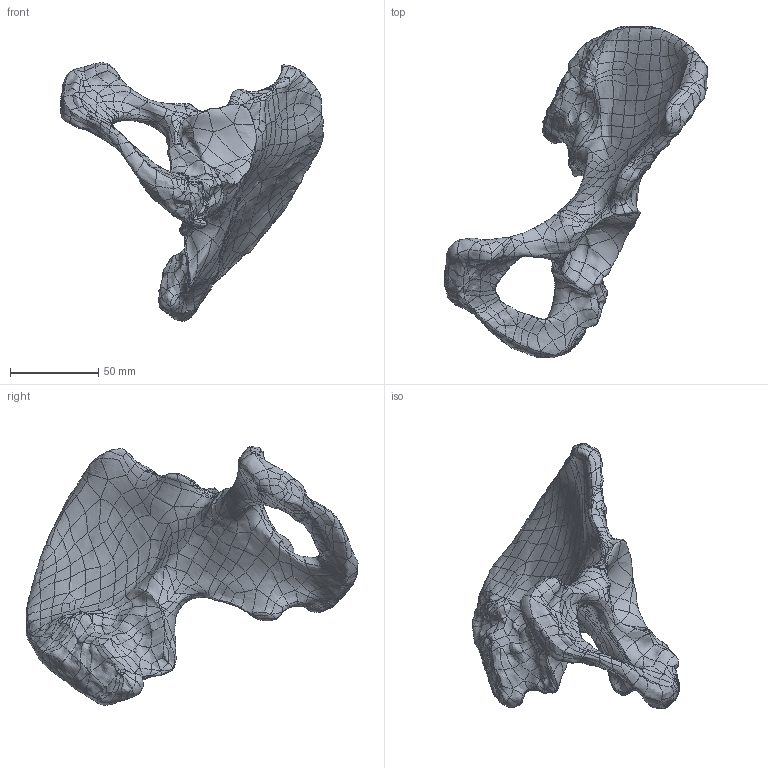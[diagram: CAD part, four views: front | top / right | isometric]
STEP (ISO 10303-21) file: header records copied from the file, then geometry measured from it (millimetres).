
FILE_DESCRIPTION (( 'STEP AP203' ), '1' );
FILE_NAME ('1291-3.STEP', '2025-12-17T18:21:26', ( '' ), ( '' ), 'SwSTEP 2.0', 'SolidWorks 2024', '' );
FILE_SCHEMA (( 'CONFIG_CONTROL_DESIGN' ));
Products named in the file (1): 1291-3
Bounding box: 148.7 x 187.75 x 146.19 mm (x, y, z)
Volume: 231938.5 mm3; surface area: 50624.9 mm2
Topology: 1 solids, 1 shells, 1351 faces, 2887 edges, 1540 vertices
Faces by surface type: bspline 1351
Entity records: 972845 total; most frequent: CARTESIAN_POINT 954261, ORIENTED_EDGE 5774, EDGE_CURVE 2887, B_SPLINE_CURVE_WITH_KNOTS 2887, VERTEX_POINT 1540, EDGE_LOOP 1355, FACE_OUTER_BOUND 1351, ADVANCED_FACE 1351
